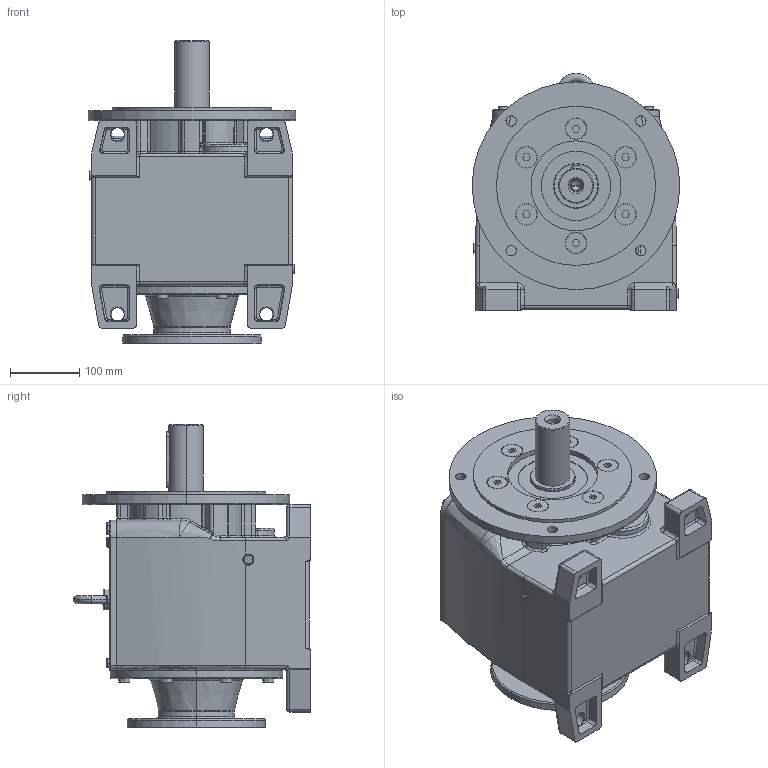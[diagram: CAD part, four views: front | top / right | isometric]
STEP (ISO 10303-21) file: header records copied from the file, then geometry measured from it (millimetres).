
FILE_DESCRIPTION (( 'STEP AP214' ), '1' );
FILE_NAME ('MTC63A-100-165+VP.STEP', '2006-05-05T10:48:32', ( '' ), ( '' ), 'SwSTEP 2.0', 'SolidWorks 2004146', '' );
FILE_SCHEMA (( 'AUTOMOTIVE_DESIGN' ));
Length unit declared in the file: millimetre
Products named in the file (6): Výst_pøíruba MTC_A_MTC6_A; D6912_Šroub DIN 6912 - M8x25; MTC63A-100-165+VP; D7991_Šroub DIN 7991 - M16 x 40; Pøíruba MRT120 kulatá _130-165-188; Skrin MTC6_A_MTC63A_AP100
Assembly tree (15 placements, depth 2):
  MTC63A-100-165+VP
    D6912_Šroub DIN 6912 - M8x25  x6
    D7991_Šroub DIN 7991 - M16 x 40  x6
    Pøíruba MRT120 kulatá _130-165-188
    Skrin MTC6_A_MTC63A_AP100
    Výst_pøíruba MTC_A_MTC6_A
Bounding box: 300 x 343 x 436.5 mm (x, y, z)
Volume: 19964510.5 mm3; surface area: 788914.5 mm2
Topology: 15 solids, 15 shells, 1375 faces, 3111 edges, 1818 vertices
Faces by surface type: plane 436, cylinder 363, cone 251, torus 249, bspline 65, sphere 11
Entity records: 73839 total; most frequent: CARTESIAN_POINT 44388, DIRECTION 5703, ORIENTED_EDGE 5090, EDGE_CURVE 2545, AXIS2_PLACEMENT_3D 2301, VERTEX_POINT 1543, CIRCLE 1253, EDGE_LOOP 1232
